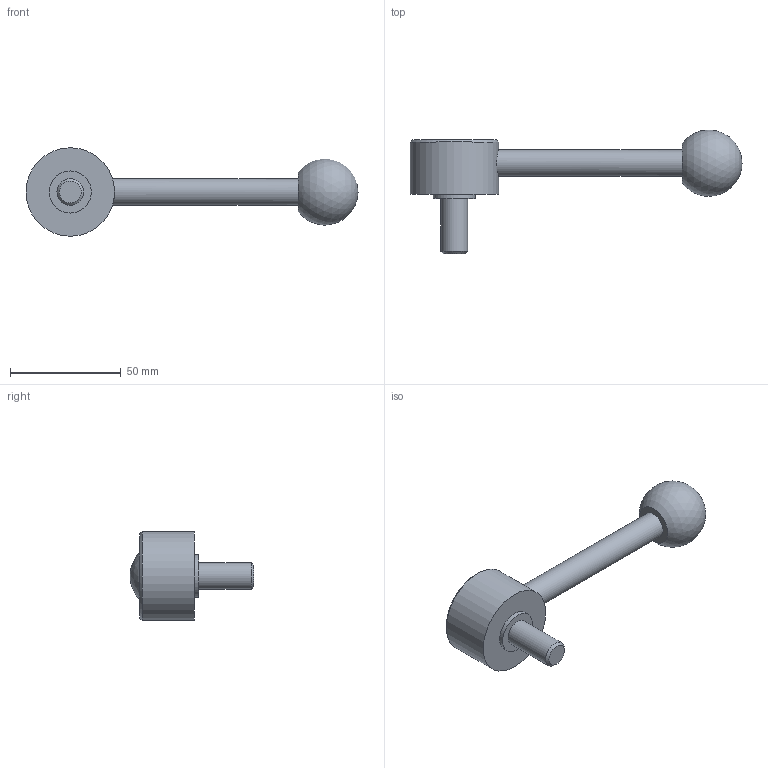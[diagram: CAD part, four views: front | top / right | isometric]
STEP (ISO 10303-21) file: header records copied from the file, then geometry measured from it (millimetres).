
FILE_DESCRIPTION( ( 'STEP AP203' ), '1' );
FILE_NAME( 'C:/Temp/Ganter_Step_05_03_2020/data/2_1/gn_125/gn_125_ms/gn_125_ms_d/Flat Adjustable Lever GN 125-40-M12-25-D.stp', '2020-03-05T11:00:50', ( 'License CC BY-ND 4.0' ), ( 'CADENAS' ), ' ', 'PARTsolutions', ' ' );
FILE_SCHEMA( ( 'CONFIG_CONTROL_DESIGN' ) );
Length unit declared in the file: millimetre
Products named in the file (1): _Flat Adjustable Lever GN 125-40-M12-25-D
Bounding box: 150 x 55.89 x 40 mm (x, y, z)
Volume: 57100.2 mm3; surface area: 12293.7 mm2
Topology: 1 solids, 1 shells, 14 faces, 23 edges, 15 vertices
Faces by surface type: plane 6, cylinder 5, cone 2, sphere 1
Full cylindrical faces by diameter (mm): 12 x2, 19 x1, 28 x1, 40 x1
Entity records: 402 total; most frequent: CARTESIAN_POINT 125, DIRECTION 54, AXIS2_PLACEMENT_3D 27, EDGE_LOOP 26, ORIENTED_EDGE 26, FACE_OUTER_BOUND 19, ADVANCED_FACE 14, VERTEX_POINT 14
